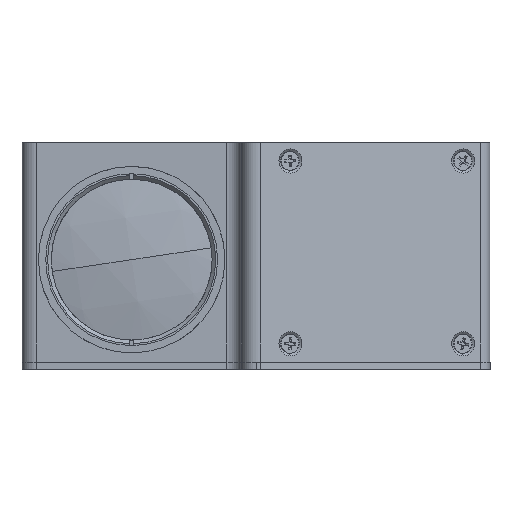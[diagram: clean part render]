
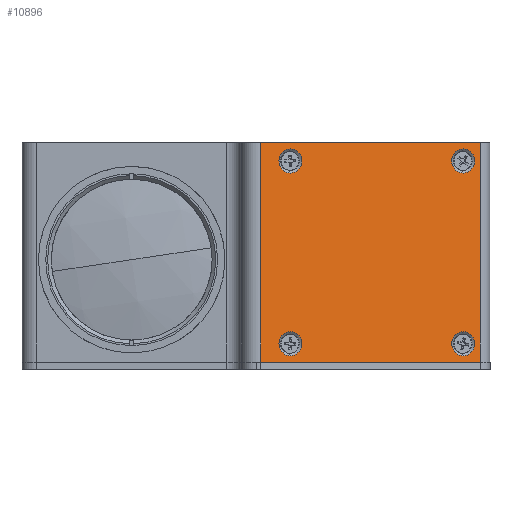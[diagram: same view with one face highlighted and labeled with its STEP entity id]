
A CAD part, left-side view. The second image highlights one B-rep face of the part: STEP entity #10896.
In plain terms, the highlighted planar face has unit normal (-0.946, -0.326, 0).
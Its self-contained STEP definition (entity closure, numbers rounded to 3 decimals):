
#240 = CIRCLE ( 'NONE', #4147, 3.3 ) ;
#375 = FACE_BOUND ( 'NONE', #4526, .T. ) ;
#385 = CIRCLE ( 'NONE', #3180, 3.3 ) ;
#509 = DIRECTION ( 'NONE',  ( -0.946, -0.326, 0. ) ) ;
#785 = VERTEX_POINT ( 'NONE', #10996 ) ;
#1054 = CARTESIAN_POINT ( 'NONE',  ( 50.615, -90.677, -19.7 ) ) ;
#1268 = AXIS2_PLACEMENT_3D ( 'NONE', #2170, #3426, #11116 ) ;
#1318 = ORIENTED_EDGE ( 'NONE', *, *, #10021, .F. ) ;
#1487 = ORIENTED_EDGE ( 'NONE', *, *, #9948, .F. ) ;
#1579 = CARTESIAN_POINT ( 'NONE',  ( 34.337, -43.401, -23. ) ) ;
#2170 = CARTESIAN_POINT ( 'NONE',  ( 42.084, -65.9, 2. ) ) ;
#2223 = EDGE_LOOP ( 'NONE', ( #1318, #11567, #4165, #12098 ) ) ;
#2421 = CIRCLE ( 'NONE', #11145, 3.3 ) ;
#2422 = DIRECTION ( 'NONE',  ( -0.946, -0.326, 0. ) ) ;
#2674 = FACE_BOUND ( 'NONE', #12577, .T. ) ;
#2680 = VECTOR ( 'NONE', #9389, 1000. ) ;
#2717 = DIRECTION ( 'NONE',  ( 0., 0., 1. ) ) ;
#2842 = CARTESIAN_POINT ( 'NONE',  ( 50.615, -90.677, -26.3 ) ) ;
#2873 = DIRECTION ( 'NONE',  ( 0., 0., -1. ) ) ;
#2949 = CIRCLE ( 'NONE', #10392, 3.3 ) ;
#3180 = AXIS2_PLACEMENT_3D ( 'NONE', #7193, #509, #8297 ) ;
#3381 = VERTEX_POINT ( 'NONE', #12417 ) ;
#3416 = AXIS2_PLACEMENT_3D ( 'NONE', #3753, #11441, #4882 ) ;
#3426 = DIRECTION ( 'NONE',  ( -0.946, -0.326, 0. ) ) ;
#3753 = CARTESIAN_POINT ( 'NONE',  ( 50.615, -90.677, 27. ) ) ;
#3860 = AXIS2_PLACEMENT_3D ( 'NONE', #6481, #14188, #7573 ) ;
#3996 = LINE ( 'NONE', #9458, #9464 ) ;
#4098 = DIRECTION ( 'NONE',  ( -0.946, -0.326, 0. ) ) ;
#4106 = CIRCLE ( 'NONE', #3416, 3.3 ) ;
#4147 = AXIS2_PLACEMENT_3D ( 'NONE', #11806, #5255, #12926 ) ;
#4165 = ORIENTED_EDGE ( 'NONE', *, *, #9238, .F. ) ;
#4295 = VERTEX_POINT ( 'NONE', #11026 ) ;
#4384 = VERTEX_POINT ( 'NONE', #11129 ) ;
#4526 = EDGE_LOOP ( 'NONE', ( #10600, #8577 ) ) ;
#4882 = DIRECTION ( 'NONE',  ( 0., 0., 1. ) ) ;
#5044 = CIRCLE ( 'NONE', #8631, 3.3 ) ;
#5255 = DIRECTION ( 'NONE',  ( -0.946, -0.326, 0. ) ) ;
#5543 = EDGE_LOOP ( 'NONE', ( #1487, #10579 ) ) ;
#5662 = FACE_BOUND ( 'NONE', #13774, .T. ) ;
#5674 = LINE ( 'NONE', #12674, #2680 ) ;
#5838 = CIRCLE ( 'NONE', #3860, 3.3 ) ;
#5976 = DIRECTION ( 'NONE',  ( -0.946, -0.326, 0. ) ) ;
#6046 = LINE ( 'NONE', #6640, #11544 ) ;
#6481 = CARTESIAN_POINT ( 'NONE',  ( 50.615, -90.677, -23. ) ) ;
#6640 = CARTESIAN_POINT ( 'NONE',  ( 54.439, -101.782, 32. ) ) ;
#6679 = PLANE ( 'NONE',  #1268 ) ;
#6847 = VERTEX_POINT ( 'NONE', #14062 ) ;
#7193 = CARTESIAN_POINT ( 'NONE',  ( 34.337, -43.401, 27. ) ) ;
#7573 = DIRECTION ( 'NONE',  ( 0., 0., 1. ) ) ;
#7751 = DIRECTION ( 'NONE',  ( 0.326, -0.946, 0. ) ) ;
#7924 = VECTOR ( 'NONE', #10381, 1000. ) ;
#7933 = VERTEX_POINT ( 'NONE', #14128 ) ;
#7961 = VERTEX_POINT ( 'NONE', #8684 ) ;
#8297 = DIRECTION ( 'NONE',  ( 0., 0., 1. ) ) ;
#8510 = EDGE_CURVE ( 'NONE', #4295, #11989, #9318, .T. ) ;
#8577 = ORIENTED_EDGE ( 'NONE', *, *, #8729, .F. ) ;
#8587 = EDGE_CURVE ( 'NONE', #785, #7933, #2421, .T. ) ;
#8631 = AXIS2_PLACEMENT_3D ( 'NONE', #1579, #9320, #2717 ) ;
#8684 = CARTESIAN_POINT ( 'NONE',  ( 31.554, -35.319, -28. ) ) ;
#8729 = EDGE_CURVE ( 'NONE', #13155, #10237, #2949, .T. ) ;
#8953 = EDGE_CURVE ( 'NONE', #6847, #3381, #5044, .T. ) ;
#9031 = EDGE_CURVE ( 'NONE', #10128, #7961, #3996, .T. ) ;
#9043 = CARTESIAN_POINT ( 'NONE',  ( 34.337, -43.401, 27. ) ) ;
#9238 = EDGE_CURVE ( 'NONE', #10128, #4384, #6046, .T. ) ;
#9318 = CIRCLE ( 'NONE', #11591, 3.3 ) ;
#9320 = DIRECTION ( 'NONE',  ( -0.946, -0.326, 0. ) ) ;
#9389 = DIRECTION ( 'NONE',  ( -0.326, 0.946, 0. ) ) ;
#9458 = CARTESIAN_POINT ( 'NONE',  ( 31.554, -35.319, 2. ) ) ;
#9464 = VECTOR ( 'NONE', #2873, 1000. ) ;
#9697 = EDGE_CURVE ( 'NONE', #12744, #4384, #13763, .T. ) ;
#9836 = EDGE_CURVE ( 'NONE', #3381, #6847, #240, .T. ) ;
#9897 = EDGE_CURVE ( 'NONE', #10237, #13155, #5838, .T. ) ;
#9948 = EDGE_CURVE ( 'NONE', #7933, #785, #4106, .T. ) ;
#10017 = EDGE_CURVE ( 'NONE', #11989, #4295, #385, .T. ) ;
#10021 = EDGE_CURVE ( 'NONE', #12744, #7961, #5674, .T. ) ;
#10128 = VERTEX_POINT ( 'NONE', #11841 ) ;
#10150 = DIRECTION ( 'NONE',  ( 0., 0., 1. ) ) ;
#10237 = VERTEX_POINT ( 'NONE', #1054 ) ;
#10381 = DIRECTION ( 'NONE',  ( 0., 0., 1. ) ) ;
#10392 = AXIS2_PLACEMENT_3D ( 'NONE', #10668, #4098, #11768 ) ;
#10461 = ORIENTED_EDGE ( 'NONE', *, *, #8953, .F. ) ;
#10579 = ORIENTED_EDGE ( 'NONE', *, *, #8587, .F. ) ;
#10600 = ORIENTED_EDGE ( 'NONE', *, *, #9897, .F. ) ;
#10668 = CARTESIAN_POINT ( 'NONE',  ( 50.615, -90.677, -23. ) ) ;
#10896 = ADVANCED_FACE ( 'NONE', ( #11486, #375, #5662, #2674, #14057 ), #6679, .T. ) ;
#10996 = CARTESIAN_POINT ( 'NONE',  ( 50.615, -90.677, 23.7 ) ) ;
#11026 = CARTESIAN_POINT ( 'NONE',  ( 34.337, -43.401, 23.7 ) ) ;
#11116 = DIRECTION ( 'NONE',  ( 0., 0., 1. ) ) ;
#11129 = CARTESIAN_POINT ( 'NONE',  ( 52.208, -95.302, 32. ) ) ;
#11145 = AXIS2_PLACEMENT_3D ( 'NONE', #12548, #5976, #13667 ) ;
#11441 = DIRECTION ( 'NONE',  ( -0.946, -0.326, 0. ) ) ;
#11486 = FACE_BOUND ( 'NONE', #5543, .T. ) ;
#11544 = VECTOR ( 'NONE', #7751, 1000. ) ;
#11567 = ORIENTED_EDGE ( 'NONE', *, *, #9697, .T. ) ;
#11591 = AXIS2_PLACEMENT_3D ( 'NONE', #9043, #2422, #10150 ) ;
#11615 = ORIENTED_EDGE ( 'NONE', *, *, #8510, .F. ) ;
#11768 = DIRECTION ( 'NONE',  ( 0., 0., 1. ) ) ;
#11806 = CARTESIAN_POINT ( 'NONE',  ( 34.337, -43.401, -23. ) ) ;
#11841 = CARTESIAN_POINT ( 'NONE',  ( 31.554, -35.319, 32. ) ) ;
#11989 = VERTEX_POINT ( 'NONE', #13874 ) ;
#12098 = ORIENTED_EDGE ( 'NONE', *, *, #9031, .T. ) ;
#12417 = CARTESIAN_POINT ( 'NONE',  ( 34.337, -43.401, -19.7 ) ) ;
#12547 = CARTESIAN_POINT ( 'NONE',  ( 52.208, -95.302, 2. ) ) ;
#12548 = CARTESIAN_POINT ( 'NONE',  ( 50.615, -90.677, 27. ) ) ;
#12577 = EDGE_LOOP ( 'NONE', ( #14373, #11615 ) ) ;
#12674 = CARTESIAN_POINT ( 'NONE',  ( 54.439, -101.782, -28. ) ) ;
#12683 = ORIENTED_EDGE ( 'NONE', *, *, #9836, .F. ) ;
#12744 = VERTEX_POINT ( 'NONE', #12880 ) ;
#12880 = CARTESIAN_POINT ( 'NONE',  ( 52.208, -95.302, -28. ) ) ;
#12926 = DIRECTION ( 'NONE',  ( 0., 0., 1. ) ) ;
#13155 = VERTEX_POINT ( 'NONE', #2842 ) ;
#13667 = DIRECTION ( 'NONE',  ( 0., 0., 1. ) ) ;
#13763 = LINE ( 'NONE', #12547, #7924 ) ;
#13774 = EDGE_LOOP ( 'NONE', ( #12683, #10461 ) ) ;
#13874 = CARTESIAN_POINT ( 'NONE',  ( 34.337, -43.401, 30.3 ) ) ;
#14057 = FACE_OUTER_BOUND ( 'NONE', #2223, .T. ) ;
#14062 = CARTESIAN_POINT ( 'NONE',  ( 34.337, -43.401, -26.3 ) ) ;
#14128 = CARTESIAN_POINT ( 'NONE',  ( 50.615, -90.677, 30.3 ) ) ;
#14188 = DIRECTION ( 'NONE',  ( -0.946, -0.326, 0. ) ) ;
#14373 = ORIENTED_EDGE ( 'NONE', *, *, #10017, .F. ) ;
